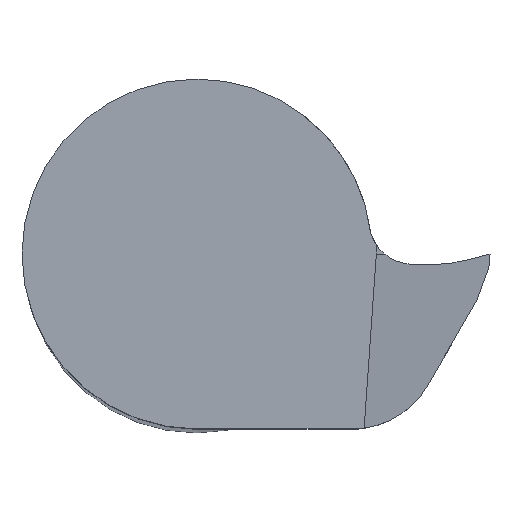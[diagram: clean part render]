
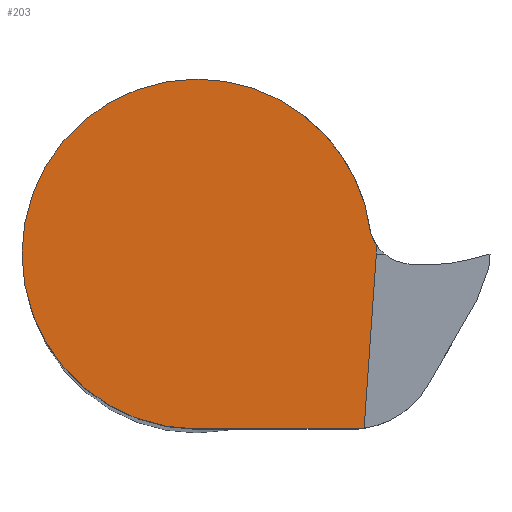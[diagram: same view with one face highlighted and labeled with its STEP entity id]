
A CAD part, top view. The second image highlights one B-rep face of the part: STEP entity #203.
In plain terms, the highlighted planar face has unit normal (0, 0, 1).
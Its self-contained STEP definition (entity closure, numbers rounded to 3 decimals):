
#108=LINE('',#748,#144);
#109=LINE('',#752,#145);
#110=LINE('',#754,#146);
#144=VECTOR('',#611,1.);
#145=VECTOR('',#614,1.);
#146=VECTOR('',#615,1.);
#203=ADVANCED_FACE('',(#252),#230,.T.);
#230=PLANE('',#547);
#252=FACE_OUTER_BOUND('',#281,.T.);
#281=EDGE_LOOP('',(#318,#319,#320,#321,#322,#323));
#318=ORIENTED_EDGE('',*,*,#472,.F.);
#319=ORIENTED_EDGE('',*,*,#471,.T.);
#320=ORIENTED_EDGE('',*,*,#473,.F.);
#321=ORIENTED_EDGE('',*,*,#474,.F.);
#322=ORIENTED_EDGE('',*,*,#475,.T.);
#323=ORIENTED_EDGE('',*,*,#476,.T.);
#428=VERTEX_POINT('',#738);
#431=VERTEX_POINT('',#743);
#432=VERTEX_POINT('',#747);
#433=VERTEX_POINT('',#749);
#434=VERTEX_POINT('',#751);
#435=VERTEX_POINT('',#753);
#471=EDGE_CURVE('',#428,#431,#527,.T.);
#472=EDGE_CURVE('',#428,#432,#528,.T.);
#473=EDGE_CURVE('',#433,#431,#108,.T.);
#474=EDGE_CURVE('',#434,#433,#529,.T.);
#475=EDGE_CURVE('',#434,#435,#109,.T.);
#476=EDGE_CURVE('',#435,#432,#110,.T.);
#527=CIRCLE('',#543,4.);
#528=CIRCLE('',#545,1.);
#529=CIRCLE('',#546,2.);
#543=AXIS2_PLACEMENT_3D('',#744,#605,#606);
#545=AXIS2_PLACEMENT_3D('',#746,#609,#610);
#546=AXIS2_PLACEMENT_3D('',#750,#612,#613);
#547=AXIS2_PLACEMENT_3D('',#755,#616,#617);
#605=DIRECTION('',(0.,0.,1.));
#606=DIRECTION('',(1.,0.,0.));
#609=DIRECTION('',(0.,0.,1.));
#610=DIRECTION('',(1.,0.,0.));
#611=DIRECTION('',(-1.,0.,0.));
#612=DIRECTION('',(0.,0.,-1.));
#613=DIRECTION('',(1.,0.,0.));
#614=DIRECTION('',(0.07,0.998,0.));
#615=DIRECTION('',(0.,1.,0.));
#616=DIRECTION('',(0.,0.,1.));
#617=DIRECTION('',(1.,0.,0.));
#738=CARTESIAN_POINT('',(3.969,0.497,-1.278));
#743=CARTESIAN_POINT('',(0.,-4.,-1.278));
#744=CARTESIAN_POINT('',(0.,0.,-1.278));
#746=CARTESIAN_POINT('',(4.932,0.768,-1.278));
#747=CARTESIAN_POINT('',(4.1,0.213,-1.278));
#748=CARTESIAN_POINT('',(3.545,-4.,-1.278));
#749=CARTESIAN_POINT('',(3.545,-4.,-1.278));
#750=CARTESIAN_POINT('',(3.545,-2.,-1.278));
#751=CARTESIAN_POINT('',(3.822,-3.981,-1.278));
#752=CARTESIAN_POINT('',(3.654,-6.372,-1.278));
#753=CARTESIAN_POINT('',(4.1,0.,-1.278));
#754=CARTESIAN_POINT('',(4.1,-6.,-1.278));
#755=CARTESIAN_POINT('',(0.,0.,-1.278));
